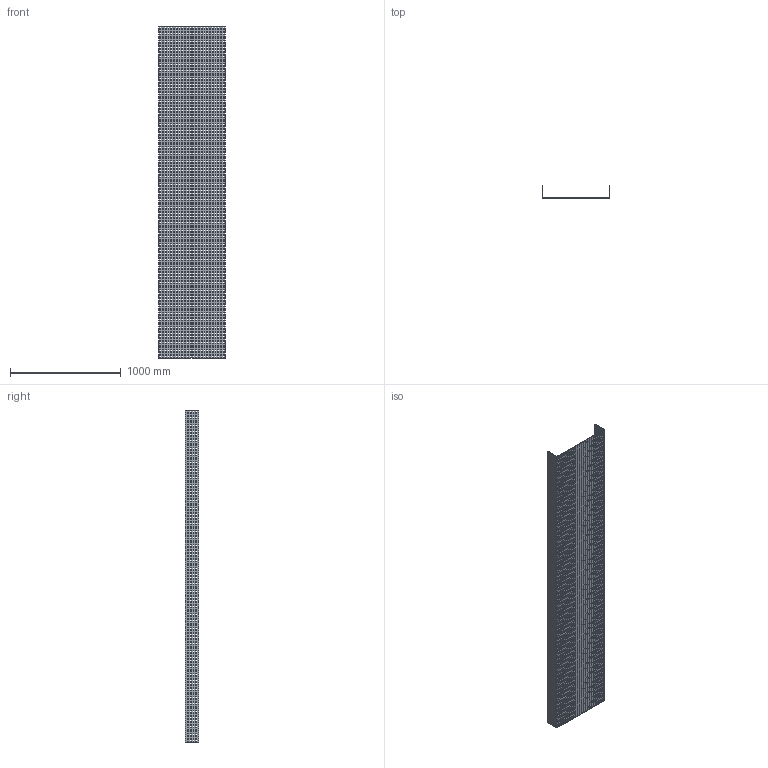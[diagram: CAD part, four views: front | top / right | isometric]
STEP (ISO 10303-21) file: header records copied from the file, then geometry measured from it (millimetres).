
FILE_DESCRIPTION (( 'STEP AP214' ), '1' );
FILE_NAME ('01B3J600.step', '2025-02-21T10:08:49', ( '' ), ( '' ), 'SwSTEP 2.0', 'SolidWorks 2023', '' );
FILE_SCHEMA (( 'AUTOMOTIVE_DESIGN' ));
Length unit declared in the file: millimetre
Products named in the file (1): 01B3J600
Bounding box: 604 x 117.5 x 3000 mm (x, y, z)
Volume: 7324800 mm3; surface area: 4728520 mm2
Topology: 1 solids, 1 shells, 9226 faces, 27672 edges, 18448 vertices
Faces by surface type: plane 9226
Entity records: 313655 total; most frequent: CARTESIAN_POINT 55347, ORIENTED_EDGE 55344, DIRECTION 46126, VECTOR 27672, EDGE_CURVE 27672, LINE 27672, VERTEX_POINT 18448, EDGE_LOOP 13834
